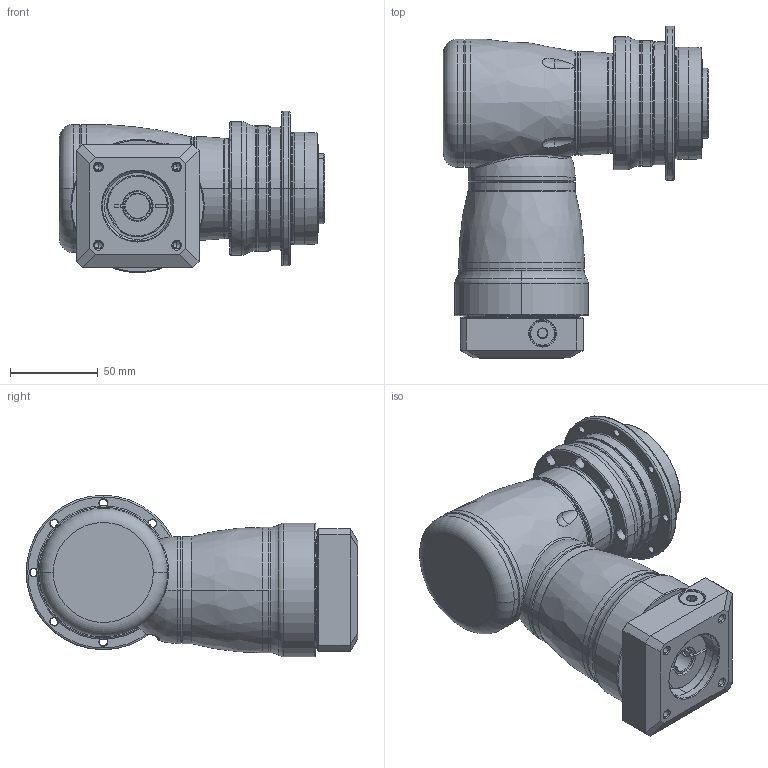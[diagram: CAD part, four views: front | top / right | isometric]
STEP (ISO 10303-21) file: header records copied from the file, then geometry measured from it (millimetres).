
FILE_DESCRIPTION((''),'2;1');
FILE_NAME('AHK064_2ST_14-P0409300101_ASM','2016-09-20T',('d01943'),(''),'PRO/ENGINEER BY PARAMETRIC TECHNOLOGY CORPORATION, 2008410','PRO/ENGINEER BY PARAMETRIC TECHNOLOGY CORPORATION, 2008410','');
FILE_SCHEMA(('CONFIG_CONTROL_DESIGN'));
Length unit declared in the file: millimetre
Products named in the file (12): P1008200002; P1802200101; P0278200003; P0359200003; P1315200001; P1007200001; P1318200201; P0503300005; P0912202001; P0409300101; 21711410012; AHK064_2ST_14-P0409300101_ASM
Assembly tree (11 placements, depth 2):
  AHK064_2ST_14-P0409300101_ASM
    P1008200002
    P1802200101
    P0278200003
    P0359200003
    P1315200001
    P1007200001
    P1318200201
    P0503300005
    P0912202001
    P0409300101
    21711410012
Bounding box: 151 x 189 x 92 mm (x, y, z)
Volume: 703514.6 mm3; surface area: 169748.8 mm2
Topology: 12 solids, 12 shells, 877 faces, 2043 edges, 1207 vertices
Faces by surface type: cylinder 298, cone 258, plane 129, torus 126, bspline 64, sphere 2
Entity records: 33986 total; most frequent: CARTESIAN_POINT 13803, DIRECTION 4509, ORIENTED_EDGE 3974, EDGE_CURVE 1987, AXIS2_PLACEMENT_3D 1938, VERTEX_POINT 1201, CIRCLE 1102, EDGE_LOOP 1010
